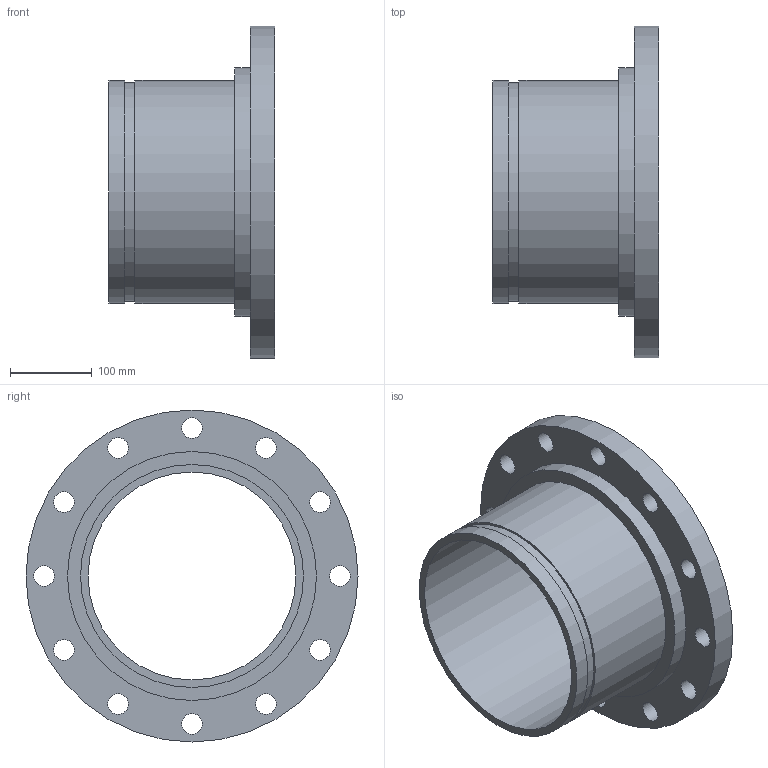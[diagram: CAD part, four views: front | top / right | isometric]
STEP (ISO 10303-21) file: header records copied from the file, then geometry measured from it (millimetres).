
FILE_DESCRIPTION(/* description */ ('VIC FLANGE ADAPTER No 45F','CAx-IF Rec.Pracs.---Representation and Presentation of Product Manufacturing Information (PMI)---4.0---2014-10-13'),/* implementation_level */ '2;1');
FILE_NAME(/* name */ 'C:\Users\kkamble\AppData\Roaming\Autodesk\ApplicationPlugins\Back Up\Victaulic_IPS_Flanged Adapter Nipple_CL 150 FF_No 45F (OGSxFLG)\Victaulic_IPS_Flanged Adapter Nipple_CL 150 FF_No 45F (OGSxFLG)_10 (250).stp',/* time_stamp */ '2020-07-26T22:23:14+06:00',/* author */ ('CONSTRUCTION PIPING SERVICES'),/* organization */ ('Victaulic'),/* preprocessor_version */ 'ST-DEVELOPER v17.2',/* originating_system */ 'Autodesk Inventor 2019',/* authorisation */ '');
FILE_SCHEMA (('AP242_MANAGED_MODEL_BASED_3D_ENGINEERING_MIM_LF { 1 0 10303 442 1 1 4 }'));
Length unit declared in the file: inch
Products named in the file (1): 045F-10.0
Bounding box: 203.2 x 406.4 x 406.4 mm (x, y, z)
Volume: 3776967.4 mm3; surface area: 529679.8 mm2
Topology: 1 solids, 1 shells, 24 faces, 66 edges, 48 vertices
Faces by surface type: cylinder 18, plane 6
Full cylindrical faces by diameter (mm): 25.4 x12, 254.508 x1, 268.275 x1, 273.05 x2, 304.8 x1, 406.4 x1
Entity records: 942 total; most frequent: DIRECTION 164, CARTESIAN_POINT 139, ORIENTED_EDGE 132, AXIS2_PLACEMENT_3D 73, EDGE_CURVE 66, EDGE_LOOP 54, CIRCLE 48, VERTEX_POINT 48
